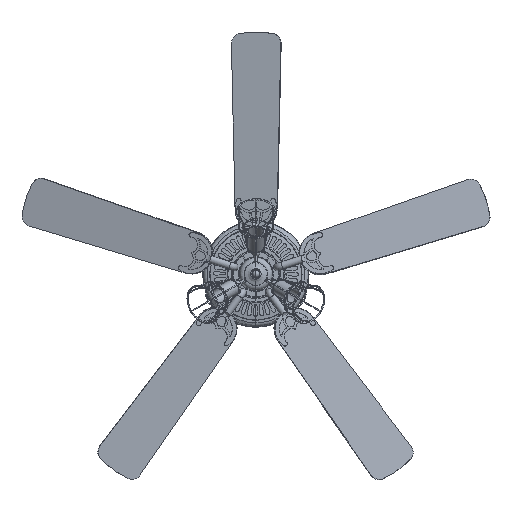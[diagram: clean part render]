
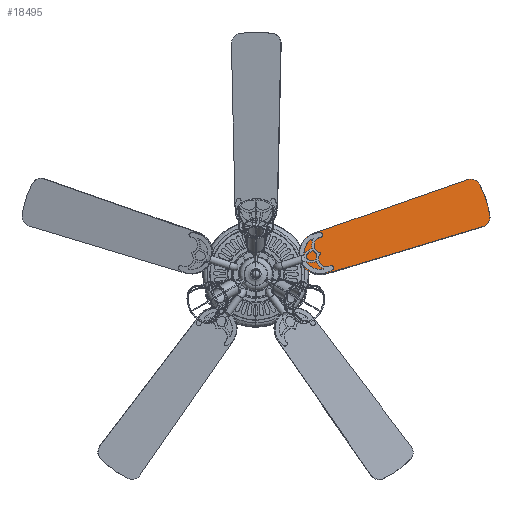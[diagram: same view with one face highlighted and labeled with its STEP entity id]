
A CAD part, top view. The second image highlights one B-rep face of the part: STEP entity #18495.
In plain terms, the highlighted planar face has unit normal (-0.054, 0.165, 0.985).
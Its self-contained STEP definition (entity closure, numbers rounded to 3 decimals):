
#1880=PLANE('',#19969);
#2385=FACE_OUTER_BOUND('',#3566,.T.);
#3566=EDGE_LOOP('',(#12960,#12961,#12962,#12963,#12964,#12965));
#4959=CIRCLE('',#19957,262.591);
#4961=CIRCLE('',#19960,27.316);
#4963=CIRCLE('',#19964,58.688);
#4965=CIRCLE('',#19968,27.316);
#5520=LINE('',#26893,#6500);
#5524=LINE('',#26905,#6504);
#6500=VECTOR('',#22425,304.8);
#6504=VECTOR('',#22437,304.8);
#7586=VERTEX_POINT('',#26875);
#7588=VERTEX_POINT('',#26879);
#7590=VERTEX_POINT('',#26885);
#7592=VERTEX_POINT('',#26891);
#7594=VERTEX_POINT('',#26897);
#7596=VERTEX_POINT('',#26903);
#9554=EDGE_CURVE('',#7586,#7588,#4959,.T.);
#9557=EDGE_CURVE('',#7588,#7590,#4961,.T.);
#9560=EDGE_CURVE('',#7590,#7592,#5520,.T.);
#9563=EDGE_CURVE('',#7592,#7594,#4963,.T.);
#9566=EDGE_CURVE('',#7594,#7596,#5524,.T.);
#9568=EDGE_CURVE('',#7596,#7586,#4965,.T.);
#12960=ORIENTED_EDGE('',*,*,#9566,.T.);
#12961=ORIENTED_EDGE('',*,*,#9568,.T.);
#12962=ORIENTED_EDGE('',*,*,#9554,.T.);
#12963=ORIENTED_EDGE('',*,*,#9557,.T.);
#12964=ORIENTED_EDGE('',*,*,#9560,.T.);
#12965=ORIENTED_EDGE('',*,*,#9563,.T.);
#18495=ADVANCED_FACE('',(#2385),#1880,.F.);
#19957=AXIS2_PLACEMENT_3D('',#26881,#22412,#22413);
#19960=AXIS2_PLACEMENT_3D('',#26887,#22419,#22420);
#19964=AXIS2_PLACEMENT_3D('',#26899,#22431,#22432);
#19968=AXIS2_PLACEMENT_3D('',#26908,#22442,#22443);
#19969=AXIS2_PLACEMENT_3D('',#26909,#22444,#22445);
#22412=DIRECTION('center_axis',(-0.054,0.165,0.985));
#22413=DIRECTION('ref_axis',(-0.304,0.937,-0.174));
#22419=DIRECTION('center_axis',(-0.054,0.165,0.985));
#22420=DIRECTION('ref_axis',(0.304,-0.937,0.174));
#22425=DIRECTION('',(-0.944,-0.33,0.004));
#22431=DIRECTION('center_axis',(-0.054,0.165,0.985));
#22432=DIRECTION('ref_axis',(-0.304,0.937,-0.174));
#22437=DIRECTION('',(0.958,0.288,0.004));
#22442=DIRECTION('center_axis',(-0.054,0.165,0.985));
#22443=DIRECTION('ref_axis',(-0.304,0.937,-0.174));
#22444=DIRECTION('center_axis',(0.054,-0.165,-0.985));
#22445=DIRECTION('ref_axis',(0.951,0.309,0.));
#26875=CARTESIAN_POINT('',(640.144,159.522,258.817));
#26879=CARTESIAN_POINT('',(612.082,245.89,242.805));
#26881=CARTESIAN_POINT('Origin',(380.254,122.822,250.811));
#26885=CARTESIAN_POINT('',(579.076,258.478,238.895));
#26887=CARTESIAN_POINT('Origin',(587.966,233.088,243.638));
#26891=CARTESIAN_POINT('',(158.575,111.565,240.62));
#26893=CARTESIAN_POINT('',(579.076,258.478,238.895));
#26897=CARTESIAN_POINT('',(194.295,1.629,261.002));
#26899=CARTESIAN_POINT('Origin',(176.435,56.597,250.811));
#26903=CARTESIAN_POINT('',(620.841,129.938,262.727));
#26905=CARTESIAN_POINT('',(194.295,1.629,261.002));
#26908=CARTESIAN_POINT('Origin',(613.109,155.704,257.985));
#26909=CARTESIAN_POINT('Origin',(158.575,111.565,240.62));
